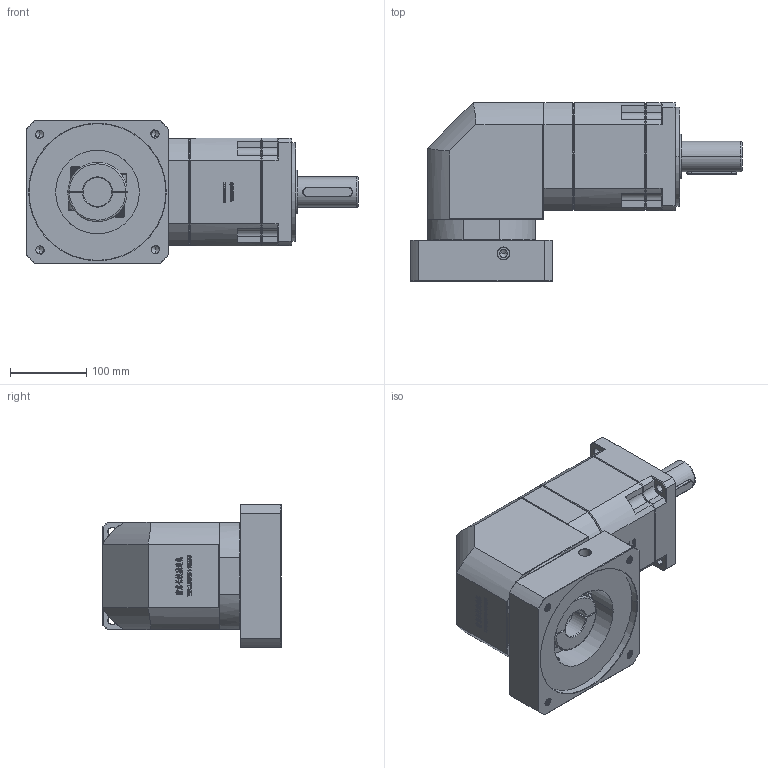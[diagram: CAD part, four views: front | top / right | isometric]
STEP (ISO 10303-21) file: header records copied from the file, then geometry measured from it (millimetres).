
FILE_DESCRIPTION (( 'STEP AP214' ), '1' );
FILE_NAME ('ZBR142A-D40-L3-38-180-215-M12.step', '2023-03-18T09:24:32', ( '' ), ( '' ), 'SwSTEP 2.0', 'SolidWorks 2016', '' );
FILE_SCHEMA (( 'AUTOMOTIVE_DESIGN' ));
Length unit declared in the file: millimetre
Products named in the file (1): ZBR142A-D40-L3-38-180-215-M12
Bounding box: 436.7 x 235 x 188 mm (x, y, z)
Volume: 7642178.6 mm3; surface area: 481697 mm2
Topology: 6 solids, 6 shells, 2916 faces, 7743 edges, 4976 vertices
Faces by surface type: plane 1552, bspline 592, cylinder 418, cone 332, torus 22
Entity records: 162755 total; most frequent: CARTESIAN_POINT 62929, ORIENTED_EDGE 15426, DIRECTION 11676, EDGE_CURVE 7713, LINE 5226, VECTOR 5226, VERTEX_POINT 4976, AXIS2_PLACEMENT_3D 3225
